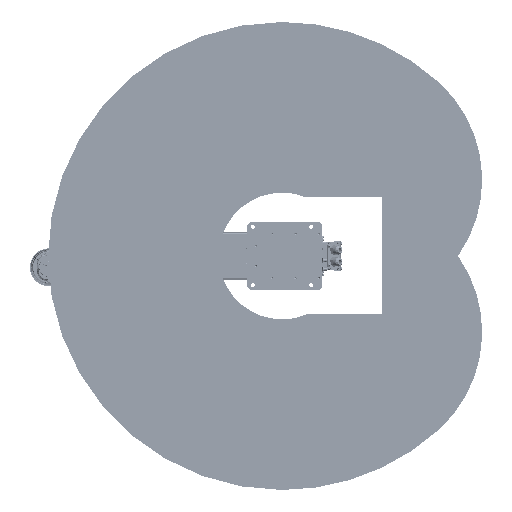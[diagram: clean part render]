
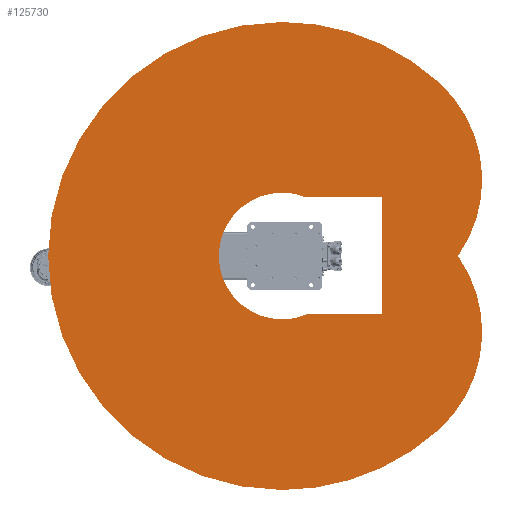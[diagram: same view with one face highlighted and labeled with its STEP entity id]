
A CAD part, front view. The second image highlights one B-rep face of the part: STEP entity #125730.
In plain terms, the highlighted planar face has unit normal (0, -1, 0) as drawn and (0, 0, 1) by its records, which use the part's own axes.
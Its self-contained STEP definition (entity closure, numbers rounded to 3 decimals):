
#1280 = CARTESIAN_POINT ( 'NONE',  ( 200., -340., 420. ) ) ;
#6287 = EDGE_CURVE ( 'NONE', #143190, #169934, #237002, .T. ) ;
#7758 = CARTESIAN_POINT ( 'NONE',  ( -260.101, -234.196, 420. ) ) ;
#8513 = ORIENTED_EDGE ( 'NONE', *, *, #249429, .F. ) ;
#15495 = CARTESIAN_POINT ( 'NONE',  ( 0., 0., 420. ) ) ;
#27961 = ORIENTED_EDGE ( 'NONE', *, *, #196805, .F. ) ;
#30819 = CARTESIAN_POINT ( 'NONE',  ( 0., 0., 420. ) ) ;
#31502 = DIRECTION ( 'NONE',  ( 0., 0., -1. ) ) ;
#39148 = AXIS2_PLACEMENT_3D ( 'NONE', #303882, #161888, #206388 ) ;
#40227 = DIRECTION ( 'NONE',  ( 0., 0., 1. ) ) ;
#40515 = DIRECTION ( 'NONE',  ( 0., 0., -1. ) ) ;
#41867 = VERTEX_POINT ( 'NONE', #128756 ) ;
#46602 = EDGE_CURVE ( 'NONE', #179254, #277022, #231319, .T. ) ;
#48677 = CIRCLE ( 'NONE', #290300, 800. ) ;
#51139 = VERTEX_POINT ( 'NONE', #1280 ) ;
#57500 = CARTESIAN_POINT ( 'NONE',  ( 260.101, -234.196, 420. ) ) ;
#62133 = DIRECTION ( 'NONE',  ( -1., 0., 0. ) ) ;
#63010 = LINE ( 'NONE', #174080, #137362 ) ;
#63296 = DIRECTION ( 'NONE',  ( -1., 0., 0. ) ) ;
#66775 = CARTESIAN_POINT ( 'NONE',  ( -594.516, -535.304, 420. ) ) ;
#74591 = DIRECTION ( 'NONE',  ( 0., 0., 1. ) ) ;
#79297 = ORIENTED_EDGE ( 'NONE', *, *, #182351, .F. ) ;
#80813 = DIRECTION ( 'NONE',  ( 0., 0., -1. ) ) ;
#84745 = FACE_OUTER_BOUND ( 'NONE', #287210, .T. ) ;
#85834 = ORIENTED_EDGE ( 'NONE', *, *, #89803, .F. ) ;
#88115 = CIRCLE ( 'NONE', #39148, 216.5 ) ;
#89803 = EDGE_CURVE ( 'NONE', #51139, #41867, #63010, .T. ) ;
#99591 = DIRECTION ( 'NONE',  ( -1., 0., 0. ) ) ;
#100602 = CARTESIAN_POINT ( 'NONE',  ( 0., -234.196, 420. ) ) ;
#106318 = ORIENTED_EDGE ( 'NONE', *, *, #201691, .F. ) ;
#110742 = DIRECTION ( 'NONE',  ( 0., 0., -1. ) ) ;
#113724 = VERTEX_POINT ( 'NONE', #212337 ) ;
#114063 = AXIS2_PLACEMENT_3D ( 'NONE', #121304, #74591, #172066 ) ;
#115998 = CIRCLE ( 'NONE', #137820, 216.5 ) ;
#118784 = EDGE_CURVE ( 'NONE', #113724, #245486, #88115, .T. ) ;
#119073 = CARTESIAN_POINT ( 'NONE',  ( -200., -234.196, 420. ) ) ;
#121304 = CARTESIAN_POINT ( 'NONE',  ( 0., 0., 420. ) ) ;
#122117 = DIRECTION ( 'NONE',  ( 0., -1., 0. ) ) ;
#122393 = AXIS2_PLACEMENT_3D ( 'NONE', #7758, #31502, #126820 ) ;
#125730 = ADVANCED_FACE ( 'NONE', ( #225576, #84745 ), #222698, .F. ) ;
#126820 = DIRECTION ( 'NONE',  ( -1., 0., 0. ) ) ;
#127273 = CARTESIAN_POINT ( 'NONE',  ( 594.516, -535.304, 420. ) ) ;
#128756 = CARTESIAN_POINT ( 'NONE',  ( 200., -82.899, 420. ) ) ;
#130965 = ORIENTED_EDGE ( 'NONE', *, *, #118784, .F. ) ;
#131176 = VECTOR ( 'NONE', #122117, 1000. ) ;
#131915 = ORIENTED_EDGE ( 'NONE', *, *, #147497, .F. ) ;
#137362 = VECTOR ( 'NONE', #268296, 1000. ) ;
#137589 = DIRECTION ( 'NONE',  ( -1., 0., 0. ) ) ;
#137820 = AXIS2_PLACEMENT_3D ( 'NONE', #279592, #40227, #137589 ) ;
#143190 = VERTEX_POINT ( 'NONE', #127273 ) ;
#147497 = EDGE_CURVE ( 'NONE', #41867, #113724, #274173, .T. ) ;
#157446 = EDGE_LOOP ( 'NONE', ( #85834, #27961, #182227, #164324, #130965, #131915 ) ) ;
#161888 = DIRECTION ( 'NONE',  ( 0., 0., 1. ) ) ;
#164324 = ORIENTED_EDGE ( 'NONE', *, *, #189058, .F. ) ;
#165601 = CIRCLE ( 'NONE', #267020, 800. ) ;
#166529 = CARTESIAN_POINT ( 'NONE',  ( -200., -340., 420. ) ) ;
#169934 = VERTEX_POINT ( 'NONE', #305200 ) ;
#170690 = LINE ( 'NONE', #187442, #252269 ) ;
#172066 = DIRECTION ( 'NONE',  ( -1., 0., 0. ) ) ;
#174080 = CARTESIAN_POINT ( 'NONE',  ( 200., -234.196, 420. ) ) ;
#177976 = EDGE_CURVE ( 'NONE', #293831, #210662, #48677, .T. ) ;
#179254 = VERTEX_POINT ( 'NONE', #257173 ) ;
#182227 = ORIENTED_EDGE ( 'NONE', *, *, #46602, .F. ) ;
#182351 = EDGE_CURVE ( 'NONE', #169934, #207484, #255932, .T. ) ;
#183850 = CARTESIAN_POINT ( 'NONE',  ( 800., 0., 420. ) ) ;
#187442 = CARTESIAN_POINT ( 'NONE',  ( 0., -340., 420. ) ) ;
#189058 = EDGE_CURVE ( 'NONE', #245486, #179254, #115998, .T. ) ;
#196805 = EDGE_CURVE ( 'NONE', #277022, #51139, #170690, .T. ) ;
#200411 = AXIS2_PLACEMENT_3D ( 'NONE', #226974, #40515, #63296 ) ;
#201691 = EDGE_CURVE ( 'NONE', #210662, #143190, #236571, .T. ) ;
#206388 = DIRECTION ( 'NONE',  ( -1., 0., 0. ) ) ;
#207484 = VERTEX_POINT ( 'NONE', #66775 ) ;
#210371 = AXIS2_PLACEMENT_3D ( 'NONE', #57500, #244951, #222189 ) ;
#210662 = VERTEX_POINT ( 'NONE', #183850 ) ;
#212337 = CARTESIAN_POINT ( 'NONE',  ( 216.5, 0., 420. ) ) ;
#222189 = DIRECTION ( 'NONE',  ( -1., 0., 0. ) ) ;
#222698 = PLANE ( 'NONE',  #298753 ) ;
#225576 = FACE_BOUND ( 'NONE', #157446, .T. ) ;
#226974 = CARTESIAN_POINT ( 'NONE',  ( 0., 0., 420. ) ) ;
#231319 = LINE ( 'NONE', #119073, #131176 ) ;
#233001 = DIRECTION ( 'NONE',  ( 1., 0., 0. ) ) ;
#236571 = CIRCLE ( 'NONE', #200411, 800. ) ;
#237002 = CIRCLE ( 'NONE', #210371, 450. ) ;
#241763 = DIRECTION ( 'NONE',  ( 0., 0., -1. ) ) ;
#244951 = DIRECTION ( 'NONE',  ( 0., 0., -1. ) ) ;
#245486 = VERTEX_POINT ( 'NONE', #305138 ) ;
#249429 = EDGE_CURVE ( 'NONE', #207484, #293831, #165601, .T. ) ;
#252269 = VECTOR ( 'NONE', #233001, 1000. ) ;
#255932 = CIRCLE ( 'NONE', #122393, 450. ) ;
#257173 = CARTESIAN_POINT ( 'NONE',  ( -200., -82.899, 420. ) ) ;
#261543 = CARTESIAN_POINT ( 'NONE',  ( -800., 0., 420. ) ) ;
#267020 = AXIS2_PLACEMENT_3D ( 'NONE', #30819, #241763, #99591 ) ;
#268296 = DIRECTION ( 'NONE',  ( 0., 1., 0. ) ) ;
#269404 = DIRECTION ( 'NONE',  ( -1., 0., 0. ) ) ;
#274173 = CIRCLE ( 'NONE', #114063, 216.5 ) ;
#275993 = ORIENTED_EDGE ( 'NONE', *, *, #177976, .F. ) ;
#277022 = VERTEX_POINT ( 'NONE', #166529 ) ;
#279592 = CARTESIAN_POINT ( 'NONE',  ( 0., 0., 420. ) ) ;
#280817 = ORIENTED_EDGE ( 'NONE', *, *, #6287, .F. ) ;
#287210 = EDGE_LOOP ( 'NONE', ( #280817, #106318, #275993, #8513, #79297 ) ) ;
#290300 = AXIS2_PLACEMENT_3D ( 'NONE', #15495, #110742, #62133 ) ;
#293831 = VERTEX_POINT ( 'NONE', #261543 ) ;
#298753 = AXIS2_PLACEMENT_3D ( 'NONE', #100602, #80813, #269404 ) ;
#303882 = CARTESIAN_POINT ( 'NONE',  ( 0., 0., 420. ) ) ;
#305138 = CARTESIAN_POINT ( 'NONE',  ( -216.5, 0., 420. ) ) ;
#305200 = CARTESIAN_POINT ( 'NONE',  ( 0., -601.412, 420. ) ) ;
